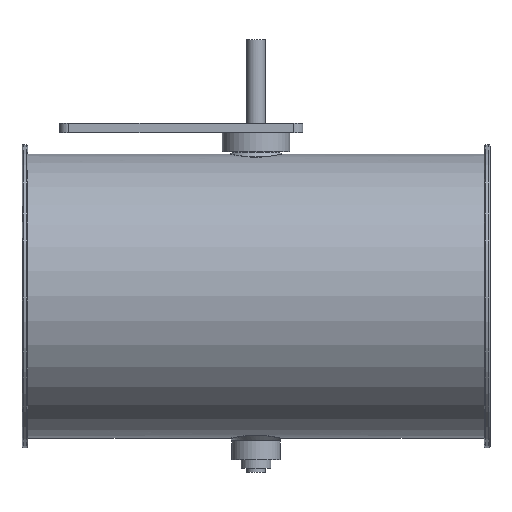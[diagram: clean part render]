
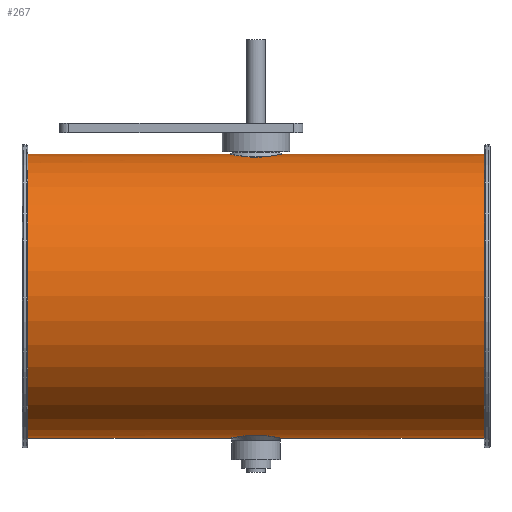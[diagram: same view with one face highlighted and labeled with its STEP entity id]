
A CAD part, top view. The second image highlights one B-rep face of the part: STEP entity #267.
In plain terms, the highlighted cylindrical face has radius 75.8 mm (diameter 151.6 mm), a full revolution.
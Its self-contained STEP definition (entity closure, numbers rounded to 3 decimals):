
#113=B_SPLINE_CURVE_WITH_KNOTS('',3,(#1693,#1694,#1695,#1696,#1697,#1698,
#1699,#1700,#1701,#1702,#1703,#1704,#1705,#1706,#1707,#1708,#1709,#1710,
#1711,#1712,#1713,#1714),.UNSPECIFIED.,.T.,.F.,(2,2,2,2,2,2,2,2,2,2,2,2,
2),(-0.062,0.,0.125,0.25,0.375,0.438,0.5,0.625,0.75,0.875,
0.938,1.,1.125),.UNSPECIFIED.);
#114=B_SPLINE_CURVE_WITH_KNOTS('',3,(#1716,#1717,#1718,#1719,#1720,#1721,
#1722,#1723,#1724,#1725,#1726,#1727,#1728,#1729,#1730,#1731,#1732,#1733,
#1734,#1735,#1736,#1737),.UNSPECIFIED.,.T.,.F.,(2,2,2,2,2,2,2,2,2,2,2,2,
2),(-0.125,0.,0.063,0.125,0.25,0.375,0.5,0.563,0.625,0.75,0.875,1.,1.063),
 .UNSPECIFIED.);
#219=CYLINDRICAL_SURFACE('',#1164,75.8);
#267=ADVANCED_FACE('',(#391,#392,#393,#394),#219,.T.);
#391=FACE_BOUND('',#539,.T.);
#392=FACE_BOUND('',#540,.T.);
#393=FACE_BOUND('',#541,.T.);
#394=FACE_BOUND('',#542,.T.);
#539=EDGE_LOOP('',(#743));
#540=EDGE_LOOP('',(#744));
#541=EDGE_LOOP('',(#745));
#542=EDGE_LOOP('',(#746));
#743=ORIENTED_EDGE('',*,*,#973,.T.);
#744=ORIENTED_EDGE('',*,*,#974,.T.);
#745=ORIENTED_EDGE('',*,*,#975,.T.);
#746=ORIENTED_EDGE('',*,*,#976,.F.);
#871=VERTEX_POINT('',#1692);
#872=VERTEX_POINT('',#1715);
#873=VERTEX_POINT('',#1738);
#874=VERTEX_POINT('',#1740);
#973=EDGE_CURVE('',#871,#871,#1051,.T.);
#974=EDGE_CURVE('',#872,#872,#113,.T.);
#975=EDGE_CURVE('',#873,#873,#114,.T.);
#976=EDGE_CURVE('',#874,#874,#1052,.T.);
#1051=CIRCLE('',#1162,75.8);
#1052=CIRCLE('',#1163,75.8);
#1162=AXIS2_PLACEMENT_3D('',#1691,#1410,#1411);
#1163=AXIS2_PLACEMENT_3D('',#1739,#1412,#1413);
#1164=AXIS2_PLACEMENT_3D('',#1741,#1414,#1415);
#1410=DIRECTION('',(1.,0.,0.));
#1411=DIRECTION('',(0.,0.,1.));
#1412=DIRECTION('',(1.,0.,0.));
#1413=DIRECTION('',(0.,0.,1.));
#1414=DIRECTION('',(1.,0.,0.));
#1415=DIRECTION('',(0.,0.,-1.));
#1691=CARTESIAN_POINT('',(-122.,-33.3,125.));
#1692=CARTESIAN_POINT('',(-122.,-33.3,200.8));
#1693=CARTESIAN_POINT('',(-1.915,-107.469,109.347));
#1694=CARTESIAN_POINT('',(-7.562,-107.826,111.109));
#1695=CARTESIAN_POINT('',(-10.621,-108.374,113.968));
#1696=CARTESIAN_POINT('',(-14.122,-109.069,120.892));
#1697=CARTESIAN_POINT('',(-14.603,-109.195,125.036));
#1698=CARTESIAN_POINT('',(-12.852,-108.813,132.605));
#1699=CARTESIAN_POINT('',(-10.608,-108.314,136.114));
#1700=CARTESIAN_POINT('',(-5.817,-107.729,139.396));
#1701=CARTESIAN_POINT('',(-3.978,-107.568,140.164));
#1702=CARTESIAN_POINT('',(-0.112,-107.436,140.797));
#1703=CARTESIAN_POINT('',(1.892,-107.468,140.655));
#1704=CARTESIAN_POINT('',(7.524,-107.822,138.912));
#1705=CARTESIAN_POINT('',(10.597,-108.369,136.071));
#1706=CARTESIAN_POINT('',(14.133,-109.071,129.094));
#1707=CARTESIAN_POINT('',(14.606,-109.195,124.972));
#1708=CARTESIAN_POINT('',(12.847,-108.811,117.377));
#1709=CARTESIAN_POINT('',(10.591,-108.311,113.868));
#1710=CARTESIAN_POINT('',(5.799,-107.727,110.595));
#1711=CARTESIAN_POINT('',(3.94,-107.566,109.826));
#1712=CARTESIAN_POINT('',(0.102,-107.437,109.205));
#1713=CARTESIAN_POINT('',(-1.915,-107.469,109.347));
#1714=CARTESIAN_POINT('',(-7.562,-107.826,111.109));
#1715=CARTESIAN_POINT('',(-3.798,-107.588,109.935));
#1716=CARTESIAN_POINT('',(-7.563,41.226,111.109));
#1717=CARTESIAN_POINT('',(-1.915,40.869,109.347));
#1718=CARTESIAN_POINT('',(0.083,40.837,109.204));
#1719=CARTESIAN_POINT('',(3.931,40.966,109.822));
#1720=CARTESIAN_POINT('',(5.783,41.125,110.584));
#1721=CARTESIAN_POINT('',(10.614,41.714,113.883));
#1722=CARTESIAN_POINT('',(12.856,42.213,117.393));
#1723=CARTESIAN_POINT('',(14.607,42.596,124.998));
#1724=CARTESIAN_POINT('',(14.117,42.467,129.126));
#1725=CARTESIAN_POINT('',(10.611,41.772,136.043));
#1726=CARTESIAN_POINT('',(7.552,41.226,138.889));
#1727=CARTESIAN_POINT('',(1.943,40.87,140.647));
#1728=CARTESIAN_POINT('',(-0.037,40.836,140.8));
#1729=CARTESIAN_POINT('',(-3.935,40.965,140.18));
#1730=CARTESIAN_POINT('',(-5.777,41.125,139.417));
#1731=CARTESIAN_POINT('',(-10.595,41.711,136.134));
#1732=CARTESIAN_POINT('',(-12.844,42.211,132.638));
#1733=CARTESIAN_POINT('',(-14.61,42.596,125.007));
#1734=CARTESIAN_POINT('',(-14.139,42.472,120.921));
#1735=CARTESIAN_POINT('',(-10.599,41.769,113.927));
#1736=CARTESIAN_POINT('',(-7.563,41.226,111.109));
#1737=CARTESIAN_POINT('',(-1.915,40.869,109.347));
#1738=CARTESIAN_POINT('',(-3.798,40.988,109.935));
#1739=CARTESIAN_POINT('',(122.,-33.3,125.));
#1740=CARTESIAN_POINT('',(122.,-33.3,200.8));
#1741=CARTESIAN_POINT('',(-125.,-33.3,125.));
